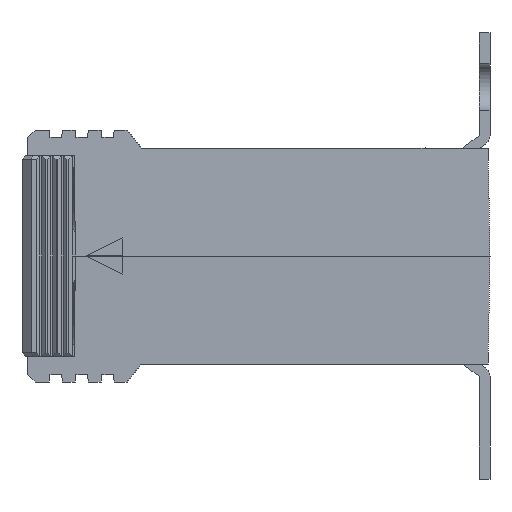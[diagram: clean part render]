
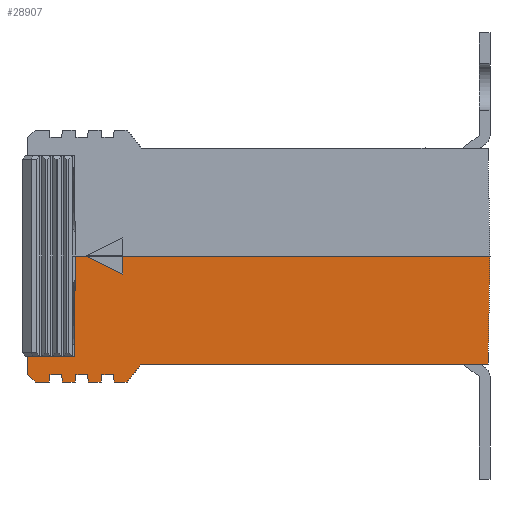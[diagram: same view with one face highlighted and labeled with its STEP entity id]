
A CAD part, left-side view. The second image highlights one B-rep face of the part: STEP entity #28907.
In plain terms, the highlighted planar face has unit normal (-1, 0, -0.018).
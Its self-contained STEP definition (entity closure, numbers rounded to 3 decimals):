
#2779=FACE_OUTER_BOUND('',#4380,.T.);
#4380=EDGE_LOOP('',(#20160,#20161,#20162,#20163,#20164,#20165,#20166,#20167,
#20168,#20169,#20170,#20171,#20172,#20173,#20174,#20175,#20176,#20177,#20178,
#20179,#20180,#20181,#20182,#20183,#20184));
#6405=LINE('',#38801,#9576);
#6643=LINE('',#40816,#9814);
#6644=LINE('',#40817,#9815);
#6645=LINE('',#40819,#9816);
#6646=LINE('',#40821,#9817);
#6647=LINE('',#40823,#9818);
#6648=LINE('',#40825,#9819);
#6649=LINE('',#40827,#9820);
#6650=LINE('',#40829,#9821);
#6651=LINE('',#40831,#9822);
#6652=LINE('',#40833,#9823);
#6653=LINE('',#40835,#9824);
#6654=LINE('',#40837,#9825);
#6655=LINE('',#40839,#9826);
#6656=LINE('',#40841,#9827);
#6657=LINE('',#40843,#9828);
#6658=LINE('',#40845,#9829);
#6659=LINE('',#40847,#9830);
#6660=LINE('',#40849,#9831);
#6661=LINE('',#40851,#9832);
#6662=LINE('',#40853,#9833);
#6663=LINE('',#40855,#9834);
#6664=LINE('',#40857,#9835);
#6665=LINE('',#40859,#9836);
#6666=LINE('',#40860,#9837);
#9576=VECTOR('',#32444,1000.);
#9814=VECTOR('',#32768,1000.);
#9815=VECTOR('',#32769,1000.);
#9816=VECTOR('',#32770,1000.);
#9817=VECTOR('',#32771,1000.);
#9818=VECTOR('',#32772,1000.);
#9819=VECTOR('',#32773,1000.);
#9820=VECTOR('',#32774,1000.);
#9821=VECTOR('',#32775,1000.);
#9822=VECTOR('',#32776,1000.);
#9823=VECTOR('',#32777,1000.);
#9824=VECTOR('',#32778,1000.);
#9825=VECTOR('',#32779,1000.);
#9826=VECTOR('',#32780,1000.);
#9827=VECTOR('',#32781,1000.);
#9828=VECTOR('',#32782,1000.);
#9829=VECTOR('',#32783,1000.);
#9830=VECTOR('',#32784,1000.);
#9831=VECTOR('',#32785,1000.);
#9832=VECTOR('',#32786,1000.);
#9833=VECTOR('',#32787,1000.);
#9834=VECTOR('',#32788,1000.);
#9835=VECTOR('',#32789,1000.);
#9836=VECTOR('',#32790,1000.);
#9837=VECTOR('',#32791,1000.);
#12738=VERTEX_POINT('',#38797);
#12740=VERTEX_POINT('',#38800);
#13085=VERTEX_POINT('',#40814);
#13086=VERTEX_POINT('',#40815);
#13087=VERTEX_POINT('',#40818);
#13088=VERTEX_POINT('',#40820);
#13089=VERTEX_POINT('',#40822);
#13090=VERTEX_POINT('',#40824);
#13091=VERTEX_POINT('',#40826);
#13092=VERTEX_POINT('',#40828);
#13093=VERTEX_POINT('',#40830);
#13094=VERTEX_POINT('',#40832);
#13095=VERTEX_POINT('',#40834);
#13096=VERTEX_POINT('',#40836);
#13097=VERTEX_POINT('',#40838);
#13098=VERTEX_POINT('',#40840);
#13099=VERTEX_POINT('',#40842);
#13100=VERTEX_POINT('',#40844);
#13101=VERTEX_POINT('',#40846);
#13102=VERTEX_POINT('',#40848);
#13103=VERTEX_POINT('',#40850);
#13104=VERTEX_POINT('',#40852);
#13105=VERTEX_POINT('',#40854);
#13106=VERTEX_POINT('',#40856);
#13107=VERTEX_POINT('',#40858);
#15484=EDGE_CURVE('',#12740,#12738,#6405,.T.);
#15842=EDGE_CURVE('',#13085,#13086,#6643,.T.);
#15843=EDGE_CURVE('',#13085,#12740,#6644,.T.);
#15844=EDGE_CURVE('',#13087,#12738,#6645,.T.);
#15845=EDGE_CURVE('',#13087,#13088,#6646,.T.);
#15846=EDGE_CURVE('',#13089,#13088,#6647,.T.);
#15847=EDGE_CURVE('',#13090,#13089,#6648,.T.);
#15848=EDGE_CURVE('',#13091,#13090,#6649,.T.);
#15849=EDGE_CURVE('',#13092,#13091,#6650,.T.);
#15850=EDGE_CURVE('',#13093,#13092,#6651,.T.);
#15851=EDGE_CURVE('',#13094,#13093,#6652,.T.);
#15852=EDGE_CURVE('',#13095,#13094,#6653,.T.);
#15853=EDGE_CURVE('',#13096,#13095,#6654,.T.);
#15854=EDGE_CURVE('',#13097,#13096,#6655,.T.);
#15855=EDGE_CURVE('',#13098,#13097,#6656,.T.);
#15856=EDGE_CURVE('',#13099,#13098,#6657,.T.);
#15857=EDGE_CURVE('',#13100,#13099,#6658,.T.);
#15858=EDGE_CURVE('',#13101,#13100,#6659,.T.);
#15859=EDGE_CURVE('',#13102,#13101,#6660,.T.);
#15860=EDGE_CURVE('',#13103,#13102,#6661,.T.);
#15861=EDGE_CURVE('',#13103,#13104,#6662,.T.);
#15862=EDGE_CURVE('',#13105,#13104,#6663,.T.);
#15863=EDGE_CURVE('',#13106,#13105,#6664,.T.);
#15864=EDGE_CURVE('',#13107,#13106,#6665,.T.);
#15865=EDGE_CURVE('',#13086,#13107,#6666,.T.);
#20160=ORIENTED_EDGE('',*,*,#15842,.F.);
#20161=ORIENTED_EDGE('',*,*,#15843,.T.);
#20162=ORIENTED_EDGE('',*,*,#15484,.T.);
#20163=ORIENTED_EDGE('',*,*,#15844,.F.);
#20164=ORIENTED_EDGE('',*,*,#15845,.T.);
#20165=ORIENTED_EDGE('',*,*,#15846,.F.);
#20166=ORIENTED_EDGE('',*,*,#15847,.F.);
#20167=ORIENTED_EDGE('',*,*,#15848,.F.);
#20168=ORIENTED_EDGE('',*,*,#15849,.F.);
#20169=ORIENTED_EDGE('',*,*,#15850,.F.);
#20170=ORIENTED_EDGE('',*,*,#15851,.F.);
#20171=ORIENTED_EDGE('',*,*,#15852,.F.);
#20172=ORIENTED_EDGE('',*,*,#15853,.F.);
#20173=ORIENTED_EDGE('',*,*,#15854,.F.);
#20174=ORIENTED_EDGE('',*,*,#15855,.F.);
#20175=ORIENTED_EDGE('',*,*,#15856,.F.);
#20176=ORIENTED_EDGE('',*,*,#15857,.F.);
#20177=ORIENTED_EDGE('',*,*,#15858,.F.);
#20178=ORIENTED_EDGE('',*,*,#15859,.F.);
#20179=ORIENTED_EDGE('',*,*,#15860,.F.);
#20180=ORIENTED_EDGE('',*,*,#15861,.T.);
#20181=ORIENTED_EDGE('',*,*,#15862,.F.);
#20182=ORIENTED_EDGE('',*,*,#15863,.F.);
#20183=ORIENTED_EDGE('',*,*,#15864,.F.);
#20184=ORIENTED_EDGE('',*,*,#15865,.F.);
#27743=PLANE('',#30587);
#28907=ADVANCED_FACE('',(#2779),#27743,.T.);
#30587=AXIS2_PLACEMENT_3D('',#40813,#32766,#32767);
#32444=DIRECTION('',(0.,1.,0.));
#32766=DIRECTION('center_axis',(-1.,0.,
-0.017));
#32767=DIRECTION('ref_axis',(-0.017,0.,1.));
#32768=DIRECTION('',(-0.017,-0.017,1.));
#32769=DIRECTION('',(0.017,0.,-1.));
#32770=DIRECTION('',(-0.017,0.017,1.));
#32771=DIRECTION('',(0.012,-0.719,-0.695));
#32772=DIRECTION('',(0.,1.,0.));
#32773=DIRECTION('',(0.017,0.087,-0.996));
#32774=DIRECTION('',(0.,1.,0.));
#32775=DIRECTION('',(-0.017,0.087,0.996));
#32776=DIRECTION('',(0.,1.,0.));
#32777=DIRECTION('',(0.017,0.087,-0.996));
#32778=DIRECTION('',(0.,1.,0.));
#32779=DIRECTION('',(-0.017,0.087,0.996));
#32780=DIRECTION('',(0.,1.,0.));
#32781=DIRECTION('',(0.017,0.087,-0.996));
#32782=DIRECTION('',(0.,1.,0.));
#32783=DIRECTION('',(-0.017,0.087,0.996));
#32784=DIRECTION('',(0.,1.,0.));
#32785=DIRECTION('',(0.014,0.625,-0.781));
#32786=DIRECTION('',(0.,1.,0.));
#32787=DIRECTION('',(-0.017,-0.017,1.));
#32788=DIRECTION('',(0.,-1.,0.));
#32789=DIRECTION('',(-0.017,0.,1.));
#32790=DIRECTION('',(0.008,-0.894,-0.447));
#32791=DIRECTION('',(0.,-1.,0.));
#38797=CARTESIAN_POINT('',(-24.006,37.256,-14.));
#38800=CARTESIAN_POINT('',(-24.006,30.756,-14.));
#38801=CARTESIAN_POINT('',(-24.006,37.5,-14.));
#40813=CARTESIAN_POINT('Origin',(-24.25,37.5,0.));
#40814=CARTESIAN_POINT('',(-24.049,30.756,-11.5));
#40815=CARTESIAN_POINT('',(-24.25,30.555,0.));
#40816=CARTESIAN_POINT('',(-24.248,30.557,-0.121));
#40817=CARTESIAN_POINT('',(-24.25,30.756,0.));
#40818=CARTESIAN_POINT('',(-23.962,37.212,-16.5));
#40819=CARTESIAN_POINT('',(-24.235,37.485,-0.846));
#40820=CARTESIAN_POINT('',(-23.945,36.176,-17.5));
#40821=CARTESIAN_POINT('',(-24.104,45.607,-8.393));
#40822=CARTESIAN_POINT('',(-23.945,34.2,-17.5));
#40823=CARTESIAN_POINT('',(-23.945,37.5,-17.5));
#40824=CARTESIAN_POINT('',(-23.962,34.113,-16.5));
#40825=CARTESIAN_POINT('',(-24.243,32.706,-0.419));
#40826=CARTESIAN_POINT('',(-23.962,32.487,-16.5));
#40827=CARTESIAN_POINT('',(-23.962,37.5,-16.5));
#40828=CARTESIAN_POINT('',(-23.945,32.4,-17.5));
#40829=CARTESIAN_POINT('',(-24.255,33.958,0.31));
#40830=CARTESIAN_POINT('',(-23.945,30.6,-17.5));
#40831=CARTESIAN_POINT('',(-23.945,37.5,-17.5));
#40832=CARTESIAN_POINT('',(-23.962,30.513,-16.5));
#40833=CARTESIAN_POINT('',(-24.237,29.133,-0.732));
#40834=CARTESIAN_POINT('',(-23.962,28.887,-16.5));
#40835=CARTESIAN_POINT('',(-23.962,37.5,-16.5));
#40836=CARTESIAN_POINT('',(-23.945,28.8,-17.5));
#40837=CARTESIAN_POINT('',(-24.261,30.385,0.622));
#40838=CARTESIAN_POINT('',(-23.945,27.,-17.5));
#40839=CARTESIAN_POINT('',(-23.945,37.5,-17.5));
#40840=CARTESIAN_POINT('',(-23.962,26.913,-16.5));
#40841=CARTESIAN_POINT('',(-24.232,25.56,-1.044));
#40842=CARTESIAN_POINT('',(-23.962,25.287,-16.5));
#40843=CARTESIAN_POINT('',(-23.962,37.5,-16.5));
#40844=CARTESIAN_POINT('',(-23.945,25.2,-17.5));
#40845=CARTESIAN_POINT('',(-24.266,26.813,0.935));
#40846=CARTESIAN_POINT('',(-23.945,23.4,-17.5));
#40847=CARTESIAN_POINT('',(-23.945,37.5,-17.5));
#40848=CARTESIAN_POINT('',(-23.988,21.4,-15.));
#40849=CARTESIAN_POINT('',(-24.011,20.364,-13.705));
#40850=CARTESIAN_POINT('',(-23.988,-26.738,-15.));
#40851=CARTESIAN_POINT('',(-23.988,37.5,-15.));
#40852=CARTESIAN_POINT('',(-24.25,-27.,0.));
#40853=CARTESIAN_POINT('',(-24.23,-26.98,-1.125));
#40854=CARTESIAN_POINT('',(-24.25,24.006,0.));
#40855=CARTESIAN_POINT('',(-24.25,37.5,0.));
#40856=CARTESIAN_POINT('',(-24.206,24.006,-2.5));
#40857=CARTESIAN_POINT('',(-24.206,24.006,-2.5));
#40858=CARTESIAN_POINT('',(-24.25,29.006,0.));
#40859=CARTESIAN_POINT('',(-24.25,29.006,0.));
#40860=CARTESIAN_POINT('',(-24.25,37.5,0.));
